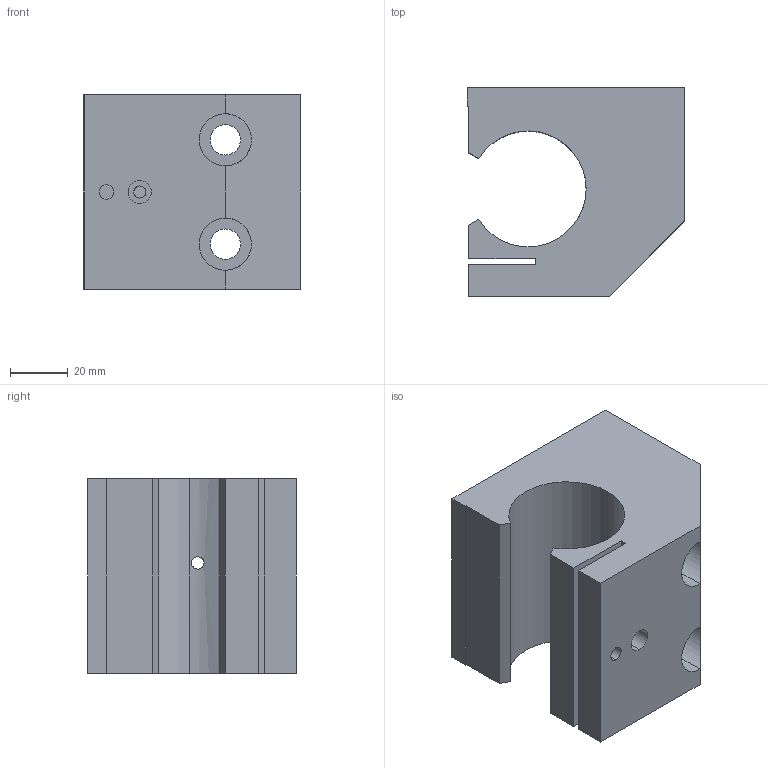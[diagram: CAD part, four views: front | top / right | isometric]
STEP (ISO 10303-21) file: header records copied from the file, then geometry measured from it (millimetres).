
FILE_DESCRIPTION (( 'STEP AP214' ), '1' );
FILE_NAME ('KGSE72-25.step', '2020-03-04T13:24:29', ( '' ), ( '' ), 'SwSTEP 2.0', 'SolidWorks 2019', '' );
FILE_SCHEMA (( 'AUTOMOTIVE_DESIGN' ));
Length unit declared in the file: millimetre
Products named in the file (1): KGSE72-25
Bounding box: 75 x 72 x 67 mm (x, y, z)
Volume: 226407.1 mm3; surface area: 40883.6 mm2
Topology: 1 solids, 1 shells, 43 faces, 114 edges, 74 vertices
Faces by surface type: cylinder 22, plane 19, cone 2
Entity records: 1638 total; most frequent: CARTESIAN_POINT 354, DIRECTION 236, ORIENTED_EDGE 228, EDGE_CURVE 114, AXIS2_PLACEMENT_3D 84, VERTEX_POINT 74, VECTOR 68, LINE 68
